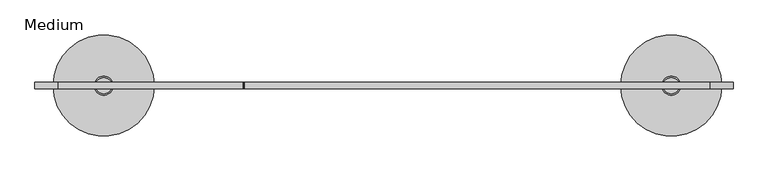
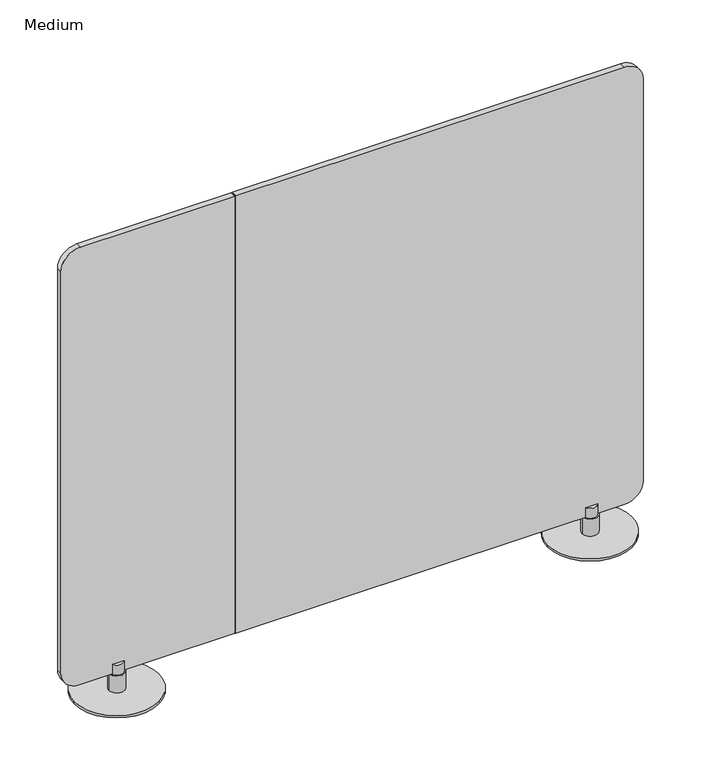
"""IFC4 building model written with IfcOpenShell, lengths in millimetres: furniture geometry, Coalesse_AM_SpaceDivision_Screen_Ensemble_Straight : Medium."""

import ifcopenshell
import ifcopenshell.guid

model = None  # the IFC model being written
_history = None  # IfcOwnerHistory: only IFC2X3 demands one
_inside = {}  # id of a spatial element -> (the spatial element, [elements in it])
_under = {}  # id of a project, library or spatial element -> (it, [spatial elements below it])
_declared = {}  # id of a project -> (the project, [libraries it declares])
_typed = {}  # id of a type object -> (the type object, [elements of that type])
_made_of = {}  # id of a material, layer set ... -> (it, [elements and type objects made of it])


def new_model(schema):
    """Start an empty IFC model of exactly this schema.

    Asked for "IFC4X3", IfcOpenShell would pick the latest addendum, in which some entities
    have other attributes; the version numbers below select the first issue.
    IFC2X3 requires an IfcOwnerHistory on every rooted entity: one is made here for all.
    """
    global model, _history
    if schema == "IFC4X3":
        model = ifcopenshell.file(schema_version=(4, 3, 0, 0))
    else:
        model = ifcopenshell.file(schema=schema)
    _inside.clear()
    _under.clear()
    _declared.clear()
    _typed.clear()
    _made_of.clear()
    _history = None
    if model.schema == "IFC2X3":
        org = make("IfcOrganization", Name="unknown")
        user = make(
            "IfcPersonAndOrganization",
            ThePerson=make("IfcPerson", FamilyName="unknown"),
            TheOrganization=org,
        )
        app = make(
            "IfcApplication",
            ApplicationDeveloper=org,
            Version="unknown",
            ApplicationFullName="unknown",
            ApplicationIdentifier="unknown",
        )
        _history = make(
            "IfcOwnerHistory",
            OwningUser=user,
            OwningApplication=app,
            ChangeAction="ADDED",
            CreationDate=0,
        )
    return model


def make(cls, **values):
    """One entity of the class cls with the attributes given. An attribute that is None is left unset."""
    return model.create_entity(
        cls, **{name: value for name, value in values.items() if value is not None}
    )


def rooted(cls, **values):
    """An entity with a GlobalId (a new one), such as an element, a storey or a relation."""
    return make(cls, GlobalId=ifcopenshell.guid.new(), OwnerHistory=_history, **values)


def si_unit(unit_type, name, prefix=None):
    """IfcSIUnit, for example si_unit("LENGTHUNIT", "METRE", prefix="MILLI")."""
    return make("IfcSIUnit", UnitType=unit_type, Prefix=prefix, Name=name)


def assignment(units):
    """IfcUnitAssignment: the units of a project."""
    return None if units is None else make("IfcUnitAssignment", Units=units)


def point(xyz):
    """IfcCartesianPoint."""
    return None if xyz is None else make("IfcCartesianPoint", Coordinates=xyz)


def direction(xyz):
    """IfcDirection."""
    return None if xyz is None else make("IfcDirection", DirectionRatios=xyz)


def frame(location, z_axis=None, x_axis=None):
    """IfcAxis2Placement3D, a coordinate frame: its origin and axes. An axis left out is left unset."""
    return make(
        "IfcAxis2Placement3D",
        Location=point(location),
        Axis=direction(z_axis),
        RefDirection=direction(x_axis),
    )


def frame_2d(location, x_axis=None):
    """IfcAxis2Placement2D, a coordinate frame in the plane: its origin and x axis."""
    return make(
        "IfcAxis2Placement2D", Location=point(location), RefDirection=direction(x_axis)
    )


def origin():
    """The frame at (0, 0, 0) with its axes left unset."""
    return frame((0.0, 0.0, 0.0))


def origin_with_axes():
    """The frame at (0, 0, 0) with the z axis (0, 0, 1) and the x axis (1, 0, 0) written out."""
    return frame((0.0, 0.0, 0.0), z_axis=(0.0, 0.0, 1.0), x_axis=(1.0, 0.0, 0.0))


def place(relative_to, where):
    """IfcLocalPlacement: puts the frame where relative to a parent placement (None: the world)."""
    return make(
        "IfcLocalPlacement", PlacementRelTo=relative_to, RelativePlacement=where
    )


def context(
    kind, dimensions, precision=None, world=None, true_north=None, identifier=None
):
    """IfcGeometricRepresentationContext, for example the 3D "Model" context."""
    return make(
        "IfcGeometricRepresentationContext",
        ContextIdentifier=identifier,
        ContextType=kind,
        CoordinateSpaceDimension=dimensions,
        Precision=precision,
        WorldCoordinateSystem=world,
        TrueNorth=true_north,
    )


def project(units=None, contexts=None):
    """IfcProject with its units and contexts."""
    return rooted(
        "IfcProject",
        Name="project",
        RepresentationContexts=contexts,
        UnitsInContext=assignment(units),
    )


def spatial(cls, under=None, at=None, **own):
    """A site, building, storey or space (cls), placed at a placement, below another one or the project."""
    s = rooted(cls, ObjectPlacement=at, **own)
    if under is not None:
        _under.setdefault(under.id(), (under, []))[1].append(s)
    return s


def polyline(points):
    """IfcPolyline through the points."""
    return make("IfcPolyline", Points=[point(p) for p in points])


def circle_curve(where, radius):
    """IfcCircle in the frame where."""
    return make("IfcCircle", Position=where, Radius=radius)


def trimmed(basis, trim1, trim2, sense, master):
    """IfcTrimmedCurve: the piece of a basis curve between two trims."""
    return make(
        "IfcTrimmedCurve",
        BasisCurve=basis,
        Trim1=trim1,
        Trim2=trim2,
        SenseAgreement=sense,
        MasterRepresentation=master,
    )


def segment(curve, same_sense, transition):
    """IfcCompositeCurveSegment."""
    return make(
        "IfcCompositeCurveSegment",
        Transition=transition,
        SameSense=same_sense,
        ParentCurve=curve,
    )


def composite_curve(segments, self_intersect=None):
    """IfcCompositeCurve: segments joined end to end."""
    return make("IfcCompositeCurve", Segments=segments, SelfIntersect=self_intersect)


def outline(outer, holes=None, kind="AREA"):
    """IfcArbitraryClosedProfileDef: a profile drawn as a closed curve; with holes, ...WithVoids."""
    if holes is None:
        return make("IfcArbitraryClosedProfileDef", ProfileType=kind, OuterCurve=outer)
    return make(
        "IfcArbitraryProfileDefWithVoids",
        ProfileType=kind,
        OuterCurve=outer,
        InnerCurves=holes,
    )


def extrude(swept, where, along, depth):
    """IfcExtrudedAreaSolid: the profile swept, set in the frame where, extruded along a direction by depth."""
    return make(
        "IfcExtrudedAreaSolid",
        SweptArea=swept,
        Position=where,
        ExtrudedDirection=direction(along),
        Depth=depth,
    )


def shape(context_of_items, identifier, shape_type, items):
    """IfcShapeRepresentation: the items that make up one representation, for example the "Body"."""
    return make(
        "IfcShapeRepresentation",
        ContextOfItems=context_of_items,
        RepresentationIdentifier=identifier,
        RepresentationType=shape_type,
        Items=items,
    )


def source(mapping_origin, context_of_items, identifier, shape_type, items):
    """IfcRepresentationMap: a shape defined once, which mapped items show again and again."""
    return make(
        "IfcRepresentationMap",
        MappingOrigin=mapping_origin,
        MappedRepresentation=shape(context_of_items, identifier, shape_type, items),
    )


def transform(
    local_origin,
    x_axis=None,
    y_axis=None,
    z_axis=None,
    scale=None,
    scale2=None,
    scale3=None,
    uniform=True,
):
    """IfcCartesianTransformationOperator3D, or its non-uniform kind. x_axis, y_axis, z_axis: its Axis1, 2, 3."""
    if uniform:
        return make(
            "IfcCartesianTransformationOperator3D",
            Axis1=direction(x_axis),
            Axis2=direction(y_axis),
            LocalOrigin=point(local_origin),
            Scale=scale,
            Axis3=direction(z_axis),
        )
    return make(
        "IfcCartesianTransformationOperator3DnonUniform",
        Axis1=direction(x_axis),
        Axis2=direction(y_axis),
        LocalOrigin=point(local_origin),
        Scale=scale,
        Axis3=direction(z_axis),
        Scale2=scale2,
        Scale3=scale3,
    )


def mapped(mapping_source, mapping_target):
    """IfcMappedItem: shows the shape of a source again, moved by a transform."""
    return make(
        "IfcMappedItem", MappingSource=mapping_source, MappingTarget=mapping_target
    )


def made_of(thing, what):
    """Note that an element or type object is made of a material, layer set ...; save() writes the relation."""
    if what is not None:
        _made_of.setdefault(what.id(), (what, []))[1].append(thing)
    return thing


def element(
    cls,
    number,
    at=None,
    inside=None,
    cuts=None,
    type_object=None,
    material=None,
    context=None,
    identifier="Body",
    shape_type=None,
    held_by="IfcProductDefinitionShape",
    body=None,
    shapes=None,
    **own,
):
    """One element of the class cls, such as IfcWall. Its Tag is "e" and its number.

    at: its placement. inside: the storey or other place that contains it. cuts: it is an
    opening in that element (IfcRelVoidsElement). A single representation is given by context,
    identifier, shape_type and body (its items); several are given by shapes. held_by: the class
    of the entity that holds the representations. save() writes the other relations.
    """
    e = rooted(cls, Tag="e%d" % number, ObjectPlacement=at, **own)
    if body is not None:
        shapes = [shape(context, identifier, shape_type, body)]
    if shapes is not None:
        e.Representation = make(held_by, Representations=shapes)
    if inside is not None:
        _inside.setdefault(inside.id(), (inside, []))[1].append(e)
    if cuts is not None:
        rooted(
            "IfcRelVoidsElement", RelatingBuildingElement=cuts, RelatedOpeningElement=e
        )
    if type_object is not None:
        _typed.setdefault(type_object.id(), (type_object, []))[1].append(e)
    return made_of(e, material)


def aggregate(whole, parts):
    """IfcRelAggregates: a whole, such as a stair, and the parts it consists of."""
    return rooted("IfcRelAggregates", RelatingObject=whole, RelatedObjects=parts)


def save(model, path):
    """Write the relations noted so far, then the file.

    IfcRelAggregates (storeys below a building ...), IfcRelContainedInSpatialStructure (elements
    in a storey), IfcRelDefinesByType, IfcRelAssociatesMaterial and IfcRelDeclares: one each for
    every whole, place, type object, material and project.
    """
    for whole, parts in _under.values():
        aggregate(whole, parts)
    for where, things in _inside.values():
        rooted(
            "IfcRelContainedInSpatialStructure",
            RelatedElements=things,
            RelatingStructure=where,
        )
    for kind, things in _typed.values():
        rooted("IfcRelDefinesByType", RelatedObjects=things, RelatingType=kind)
    for what, things in _made_of.values():
        rooted("IfcRelAssociatesMaterial", RelatedObjects=things, RelatingMaterial=what)
    for by, libraries in _declared.values():
        rooted("IfcRelDeclares", RelatingContext=by, RelatedDefinitions=libraries)
    model.write(path)


def plane_surface(at):
    """IfcPlane: the flat surface through the origin of the frame at, square to its z axis."""
    return make("IfcPlane", Position=at)


def cylinder_surface(at, radius):
    """IfcCylindricalSurface: all points at the distance radius from the z axis of the frame at."""
    return make("IfcCylindricalSurface", Position=at, Radius=radius)


def advanced_brep(points, edges, surfaces, faces):
    """IfcAdvancedBrep: a solid bounded by faces that lie on surfaces and meet in shared edges.

    An edge is (start, end): straight between two places in points (the first is 0);
    or (start, end, curve); or (start, end, curve, False) where it runs against its curve.
    A face is (place in surfaces, loops), or (place, loops, False) where it looks against
    its surface's normal. A loop lists edges by number (the first is 1), with a minus sign
    where the edge is run from its end to its start. The first loop is the outer one.
    """
    corners = [point(p) for p in points]
    vertices = [make("IfcVertexPoint", VertexGeometry=c) for c in corners]
    made = []
    for start, end, *more in edges:
        made.append(
            make(
                "IfcEdgeCurve",
                EdgeStart=vertices[start],
                EdgeEnd=vertices[end],
                EdgeGeometry=more[0] if more else make("IfcPolyline", Points=[corners[start], corners[end]]),
                SameSense=more[1] if len(more) > 1 else True,
            )
        )
    hull = []
    for where, loops, *sense in faces:
        bounds = []
        for j, loop in enumerate(loops):
            ring = [make("IfcOrientedEdge", EdgeElement=made[abs(k) - 1], Orientation=k > 0) for k in loop]
            bounds.append(
                make(
                    "IfcFaceOuterBound" if j == 0 else "IfcFaceBound",
                    Bound=make("IfcEdgeLoop", EdgeList=ring),
                    Orientation=True,
                )
            )
        hull.append(make("IfcAdvancedFace", Bounds=bounds, FaceSurface=surfaces[where], SameSense=sense[0] if sense else True))
    return make("IfcAdvancedBrep", Outer=make("IfcClosedShell", CfsFaces=hull))


def medium_42b629f5(model_context):
    return source(origin(), model_context, "Body", "SolidModel", [
        extrude(outline(composite_curve([segment(polyline([(1603.502, 1868.424), (1603.502, 579.7254895)]), True, "CONTINUOUS"), segment(trimmed(circle_curve(frame_2d((1601.7648986, 579.7254895)), 1.7371014), [point((1603.502, 579.7254895))], [point((1601.7648986, 577.9883882))], False, "CARTESIAN"), True, "CONTINUOUS"), segment(polyline([(1601.7648986, 577.9883882), (70.7445512, 577.9883882)]), True, "CONTINUOUS"), segment(trimmed(circle_curve(frame_2d((70.7445512, 579.7134195)), 1.7250314), [point((70.7445512, 577.9883882))], [point((69.0195199, 579.7134195))], False, "CARTESIAN"), True, "CONTINUOUS"), segment(polyline([(69.0195199, 579.7134195), (69.0195199, 1870.4959979)]), True, "CONTINUOUS"), segment(trimmed(circle_curve(frame_2d((130.447522, 1870.4959979)), 61.4280021), [point((69.0195199, 1870.4959979))], [point((130.447522, 1931.924))], False, "CARTESIAN"), True, "CONTINUOUS"), segment(polyline([(130.447522, 1931.924), (1540.002, 1931.924)]), True, "CONTINUOUS"), segment(trimmed(circle_curve(frame_2d((1540.002, 1868.424)), 63.5), [point((1540.002, 1931.924))], [point((1603.502, 1868.424))], False, "CARTESIAN"), True, "CONTINUOUS")], self_intersect=False)), frame((0.0, -18.9253064, 0.0), z_axis=(0.0, 1.0, 0.0), x_axis=(0.0, 0.0, 1.0)), (0.0, 0.0, 1.0), 18.9253064),
        extrude(outline(composite_curve([segment(trimmed(circle_curve(frame_2d((1540.002, 63.5)), 63.5), [point((1603.502, 63.5))], [point((1540.002, 0.0))], False, "CARTESIAN"), True, "CONTINUOUS"), segment(polyline([(1540.002, 0.0), (130.447522, 0.0)]), True, "CONTINUOUS"), segment(trimmed(circle_curve(frame_2d((130.447522, 61.4280021)), 61.4280021), [point((130.447522, 0.0))], [point((69.0195199, 61.4280021))], False, "CARTESIAN"), True, "CONTINUOUS"), segment(polyline([(69.0195199, 61.4280021), (69.0195199, 576.2633568)]), True, "CONTINUOUS"), segment(trimmed(circle_curve(frame_2d((70.7445512, 576.2633568)), 1.7250314), [point((69.0195199, 576.2633568))], [point((70.7445512, 577.9883882))], False, "CARTESIAN"), True, "CONTINUOUS"), segment(polyline([(70.7445512, 577.9883882), (1601.7648986, 577.9883882)]), True, "CONTINUOUS"), segment(trimmed(circle_curve(frame_2d((1601.7648986, 576.2512868)), 1.7371014), [point((1601.7648986, 577.9883882))], [point((1603.502, 576.2512868))], False, "CARTESIAN"), True, "CONTINUOUS"), segment(polyline([(1603.502, 576.2512868), (1603.502, 63.5)]), True, "CONTINUOUS")], self_intersect=False)), frame((0.0, -18.9253064, 0.0), z_axis=(0.0, 1.0, 0.0), x_axis=(0.0, 0.0, 1.0)), (0.0, 0.0, 1.0), 18.9253064),
        advanced_brep(
        [(1734.5813805, -9.525, 7.8711858), (1787.1012862, -9.525, 7.8711858), (1760.8413333, -9.525, 7.8711858), (1734.5813805, -9.525, 67.5072456), (1787.1012862, -9.525, 67.5072456), (1738.6621838, -9.525, 67.5072456), (1783.0204829, -9.525, 67.5072456), (1738.6621838, -9.525, 102.8741713), (1783.0204829, -9.525, 102.8741713), (1760.8413333, -9.525, 102.8741713)],
        [
            (0, 1, circle_curve(frame((1760.8413333, -9.525, 7.8711858), z_axis=(0.0, 0.0, -1.0), x_axis=(1.0, 0.0, 0.0)), 26.2599528)),
            (1, 2),
            (2, 0),
            (1, 0, circle_curve(frame((1760.8413333, -9.525, 7.8711858), z_axis=(0.0, 0.0, -1.0), x_axis=(1.0, 0.0, 0.0)), 26.2599528)),
            (3, 4, circle_curve(frame((1760.8413333, -9.525, 67.5072456), z_axis=(0.0, 0.0, -1.0), x_axis=(1.0, 0.0, 0.0)), 26.2599528)),
            (4, 1),
            (0, 3),
            (4, 3, circle_curve(frame((1760.8413333, -9.525, 67.5072456), z_axis=(0.0, 0.0, -1.0), x_axis=(1.0, 0.0, 0.0)), 26.2599528)),
            (5, 6, circle_curve(frame((1760.8413333, -9.525, 67.5072456), z_axis=(0.0, 0.0, -1.0), x_axis=(1.0, 0.0, 0.0)), 22.1791496)),
            (6, 4),
            (3, 5),
            (6, 5, circle_curve(frame((1760.8413333, -9.525, 67.5072456), z_axis=(0.0, 0.0, -1.0), x_axis=(1.0, 0.0, 0.0)), 22.1791496)),
            (7, 8, circle_curve(frame((1760.8413333, -9.525, 102.8741713), z_axis=(0.0, 0.0, -1.0), x_axis=(1.0, 0.0, 0.0)), 22.1791496)),
            (8, 6),
            (5, 7),
            (8, 7, circle_curve(frame((1760.8413333, -9.525, 102.8741713), z_axis=(0.0, 0.0, -1.0), x_axis=(1.0, 0.0, 0.0)), 22.1791496)),
            (9, 8),
            (7, 9),
        ],
        [
            plane_surface(frame((1760.8413333, -9.525, 7.8711858), z_axis=(0.0, 0.0, -1.0), x_axis=(1.0, 0.0, 0.0))),
            cylinder_surface(frame((1760.8413333, -9.525, 102.8741713), z_axis=(0.0, 0.0, 1.0), x_axis=(1.0, 0.0, 0.0)), 26.2599528),
            plane_surface(frame((1760.8413333, -9.525, 67.5072456), z_axis=(0.0, 0.0, 1.0), x_axis=(1.0, 0.0, 0.0))),
            cylinder_surface(frame((1760.8413333, -9.525, 102.8741713), z_axis=(0.0, 0.0, 1.0), x_axis=(1.0, 0.0, 0.0)), 22.1791496),
            plane_surface(frame((1760.8413333, -9.525, 102.8741713), z_axis=(0.0, 0.0, 1.0), x_axis=(1.0, 0.0, 0.0))),
        ],
        [
            (0, [[1, 2, 3]]),
            (0, [[4, -3, -2]]),
            (1, [[5, 6, -1, 7]]),
            (1, [[8, -7, -4, -6]]),
            (2, [[9, 10, -5, 11]]),
            (2, [[12, -11, -8, -10]]),
            (3, [[13, 14, -9, 15]]),
            (3, [[16, -15, -12, -14]]),
            (4, [[17, -13, 18]]),
            (4, [[-18, -16, -17]]),
        ],
    ),
        advanced_brep(
        [(164.0941615, -9.525, 7.8711858), (216.6140672, -9.525, 7.8711858), (190.3541143, -9.525, 7.8711858), (164.0941615, -9.525, 67.5072456), (216.6140672, -9.525, 67.5072456), (168.1749648, -9.525, 67.5072456), (212.5332639, -9.525, 67.5072456), (168.1749648, -9.525, 102.8741713), (212.5332639, -9.525, 102.8741713), (190.3541143, -9.525, 102.8741713)],
        [
            (0, 1, circle_curve(frame((190.3541143, -9.525, 7.8711858), z_axis=(0.0, 0.0, -1.0), x_axis=(1.0, 0.0, 0.0)), 26.2599528)),
            (1, 2),
            (2, 0),
            (1, 0, circle_curve(frame((190.3541143, -9.525, 7.8711858), z_axis=(0.0, 0.0, -1.0), x_axis=(1.0, 0.0, 0.0)), 26.2599528)),
            (3, 4, circle_curve(frame((190.3541143, -9.525, 67.5072456), z_axis=(0.0, 0.0, -1.0), x_axis=(1.0, 0.0, 0.0)), 26.2599528)),
            (4, 1),
            (0, 3),
            (4, 3, circle_curve(frame((190.3541143, -9.525, 67.5072456), z_axis=(0.0, 0.0, -1.0), x_axis=(1.0, 0.0, 0.0)), 26.2599528)),
            (5, 6, circle_curve(frame((190.3541143, -9.525, 67.5072456), z_axis=(0.0, 0.0, -1.0), x_axis=(1.0, 0.0, 0.0)), 22.1791496)),
            (6, 4),
            (3, 5),
            (6, 5, circle_curve(frame((190.3541143, -9.525, 67.5072456), z_axis=(0.0, 0.0, -1.0), x_axis=(1.0, 0.0, 0.0)), 22.1791496)),
            (7, 8, circle_curve(frame((190.3541143, -9.525, 102.8741713), z_axis=(0.0, 0.0, -1.0), x_axis=(1.0, 0.0, 0.0)), 22.1791496)),
            (8, 6),
            (5, 7),
            (8, 7, circle_curve(frame((190.3541143, -9.525, 102.8741713), z_axis=(0.0, 0.0, -1.0), x_axis=(1.0, 0.0, 0.0)), 22.1791496)),
            (9, 8),
            (7, 9),
        ],
        [
            plane_surface(frame((190.3541143, -9.525, 7.8711858), z_axis=(0.0, 0.0, -1.0), x_axis=(1.0, 0.0, 0.0))),
            cylinder_surface(frame((190.3541143, -9.525, 102.8741713), z_axis=(0.0, 0.0, 1.0), x_axis=(1.0, 0.0, 0.0)), 26.2599528),
            plane_surface(frame((190.3541143, -9.525, 67.5072456), z_axis=(0.0, 0.0, 1.0), x_axis=(1.0, 0.0, 0.0))),
            cylinder_surface(frame((190.3541143, -9.525, 102.8741713), z_axis=(0.0, 0.0, 1.0), x_axis=(1.0, 0.0, 0.0)), 22.1791496),
            plane_surface(frame((190.3541143, -9.525, 102.8741713), z_axis=(0.0, 0.0, 1.0), x_axis=(1.0, 0.0, 0.0))),
        ],
        [
            (0, [[1, 2, 3]]),
            (0, [[4, -3, -2]]),
            (1, [[5, 6, -1, 7]]),
            (1, [[8, -7, -4, -6]]),
            (2, [[9, 10, -5, 11]]),
            (2, [[12, -11, -8, -10]]),
            (3, [[13, 14, -9, 15]]),
            (3, [[16, -15, -12, -14]]),
            (4, [[17, -13, 18]]),
            (4, [[-18, -16, -17]]),
        ],
    ),
        extrude(outline(composite_curve([segment(trimmed(circle_curve(frame_2d((190.3541148, -9.4631709)), 140.0478322), [point((50.3062826, -9.4631709))], [point((330.4019471, -9.4631709))], False, "CARTESIAN"), True, "CONTINUOUS"), segment(trimmed(circle_curve(frame_2d((190.3541148, -9.4631709)), 140.0478322), [point((330.4019471, -9.4631709))], [point((50.3062826, -9.4631709))], False, "CARTESIAN"), True, "CONTINUOUS")], self_intersect=False)), origin_with_axes(), (0.0, 0.0, 1.0), 7.8711858),
        extrude(outline(composite_curve([segment(trimmed(circle_curve(frame_2d((1760.8413313, -9.4631709)), 140.0478322), [point((1620.7934991, -9.4631709))], [point((1900.8891636, -9.4631709))], False, "CARTESIAN"), True, "CONTINUOUS"), segment(trimmed(circle_curve(frame_2d((1760.8413313, -9.4631709)), 140.0478322), [point((1900.8891636, -9.4631709))], [point((1620.7934991, -9.4631709))], False, "CARTESIAN"), True, "CONTINUOUS")], self_intersect=False)), origin_with_axes(), (0.0, 0.0, 1.0), 7.8711858),
    ])


if __name__ == "__main__":
    model = new_model("IFC4")
    model_context = context("Model", 3, world=origin())
    ifc_project = project(units=[si_unit("LENGTHUNIT", "METRE", prefix="MILLI")], contexts=[model_context])
    site = spatial("IfcSite", under=ifc_project)
    building = spatial("IfcBuilding", under=site)
    placement = place(None, origin())
    medium_shape = medium_42b629f5(model_context)
    element("IfcFurniture", 1, ObjectType="Coalesse_AM_SpaceDivision_Screen_Ensemble_Straight : Medium", at=placement, inside=building, context=model_context, shape_type="MappedRepresentation", body=[
        mapped(medium_shape, transform((0.0, 0.0, 0.0), x_axis=(1.0, 0.0, 0.0), y_axis=(0.0, 1.0, 0.0), z_axis=(0.0, 0.0, 1.0))),
    ])
    save(model, "model.ifc")
